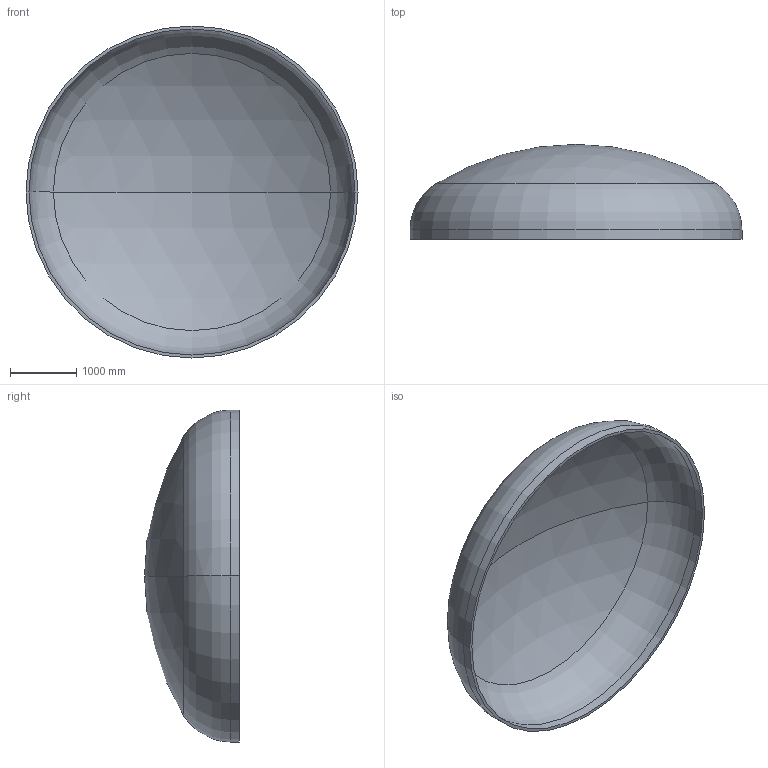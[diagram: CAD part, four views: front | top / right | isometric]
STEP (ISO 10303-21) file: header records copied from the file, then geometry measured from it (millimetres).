
FILE_DESCRIPTION (( 'STEP AP203' ), '1' );
FILE_NAME ('DIN 28013 Korbbogenform_-_Boden DIN 28013 - 5000 x 140 - I - s=45.step', '2016-07-02T00:31:33', ( '' ), ( '' ), 'SwSTEP 2.0', 'SolidWorks 2013', '' );
FILE_SCHEMA (( 'CONFIG_CONTROL_DESIGN' ));
Length unit declared in the file: millimetre
Products named in the file (1): DIN 28013 Korbbogenform_-_Boden DIN 28013 - 5000 x 140 - I - s=45
Bounding box: 5000 x 1429.34 x 5000 mm (x, y, z)
Volume: 1307329297.5 mm3; surface area: 58808240.4 mm2
Topology: 1 solids, 1 shells, 13 faces, 24 edges, 14 vertices
Faces by surface type: torus 4, cylinder 4, sphere 4, plane 1
Entity records: 407 total; most frequent: DIRECTION 72, CARTESIAN_POINT 52, ORIENTED_EDGE 48, AXIS2_PLACEMENT_3D 34, EDGE_CURVE 24, CIRCLE 20, VERTEX_POINT 14, EDGE_LOOP 14
